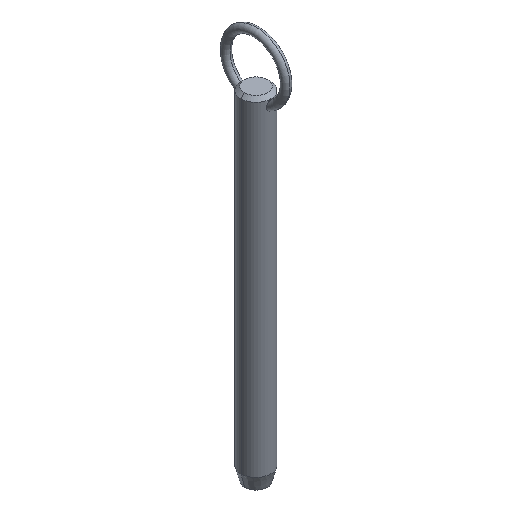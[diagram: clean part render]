
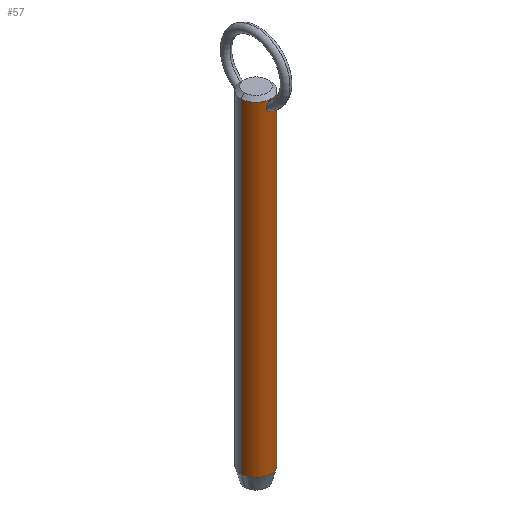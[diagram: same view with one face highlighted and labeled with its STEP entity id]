
A CAD part, isometric view. The second image highlights one B-rep face of the part: STEP entity #57.
In plain terms, the highlighted cylindrical face has radius 5.55 mm (diameter 11.1 mm), a partial arc.
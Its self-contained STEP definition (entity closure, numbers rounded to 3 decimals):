
#3 = CARTESIAN_POINT ( 'NONE',  ( -0.211, -5.547, 111.429 ) ) ;
#4 = EDGE_CURVE ( 'NONE', #201, #216, #134, .T. ) ;
#10 = FACE_OUTER_BOUND ( 'NONE', #47, .T. ) ;
#19 = CARTESIAN_POINT ( 'NONE',  ( 0.807, -5.492, 108.206 ) ) ;
#24 = CARTESIAN_POINT ( 'NONE',  ( 1.194, -5.422, 110.671 ) ) ;
#27 = CARTESIAN_POINT ( 'NONE',  ( 0.213, -5.547, 107.988 ) ) ;
#44 = CARTESIAN_POINT ( 'NONE',  ( -0.807, -5.492, 108.205 ) ) ;
#47 = EDGE_LOOP ( 'NONE', ( #224, #252, #444, #154 ) ) ;
#52 = CARTESIAN_POINT ( 'NONE',  ( -1.26, -5.407, 108.642 ) ) ;
#55 = EDGE_CURVE ( 'NONE', #376, #216, #335, .T. ) ;
#56 = CARTESIAN_POINT ( 'NONE',  ( -1.5, -5.343, 109.453 ) ) ;
#57 = ADVANCED_FACE ( 'NONE', ( #10, #305 ), #489, .T. ) ;
#60 = CARTESIAN_POINT ( 'NONE',  ( 0., -5.55, 111.445 ) ) ;
#65 = CARTESIAN_POINT ( 'NONE',  ( 0.941, -5.471, 111.007 ) ) ;
#68 = CARTESIAN_POINT ( 'NONE',  ( 0.786, -5.497, 111.157 ) ) ;
#72 = CARTESIAN_POINT ( 'NONE',  ( 0., -5.55, 107.977 ) ) ;
#88 = CARTESIAN_POINT ( 'NONE',  ( -0.107, -5.55, 107.977 ) ) ;
#90 = CARTESIAN_POINT ( 'NONE',  ( -0.513, -5.527, 111.323 ) ) ;
#93 = CARTESIAN_POINT ( 'NONE',  ( 0., -5.55, 111.445 ) ) ;
#106 = CARTESIAN_POINT ( 'NONE',  ( 0.421, -5.535, 108.032 ) ) ;
#114 = CARTESIAN_POINT ( 'NONE',  ( -5.55, 0., 111.75 ) ) ;
#119 = B_SPLINE_CURVE_WITH_KNOTS ( 'NONE', 3,
 ( #525, #88, #367, #450, #327, #279, #44, #340, #491, #52, #166, #293, #373, #56, #413, #203, #161, #456, #243, #486, #245, #90, #457, #3, #338, #93 ),
 .UNSPECIFIED., .F., .F.,
 ( 4, 2, 2, 2, 2, 2, 2, 2, 2, 2, 2, 2, 4 ),
 ( 0.01, 0.01, 0.01, 0.011, 0.011, 0.012, 0.012, 0.012, 0.013, 0.013, 0.014, 0.014, 0.015 ),
 .UNSPECIFIED. ) ;
#134 = LINE ( 'NONE', #339, #329 ) ;
#140 = DIRECTION ( 'NONE',  ( 0., 0., 1. ) ) ;
#143 = VERTEX_POINT ( 'NONE', #488 ) ;
#146 = DIRECTION ( 'NONE',  ( 0., 0., -1. ) ) ;
#154 = ORIENTED_EDGE ( 'NONE', *, *, #55, .T. ) ;
#158 = CARTESIAN_POINT ( 'NONE',  ( -5.55, 0., -9.2 ) ) ;
#159 = ORIENTED_EDGE ( 'NONE', *, *, #357, .T. ) ;
#161 = CARTESIAN_POINT ( 'NONE',  ( -1.44, -5.36, 110.087 ) ) ;
#166 = CARTESIAN_POINT ( 'NONE',  ( -1.362, -5.381, 108.832 ) ) ;
#174 = EDGE_CURVE ( 'NONE', #201, #316, #370, .T. ) ;
#175 = CARTESIAN_POINT ( 'NONE',  ( 0.106, -5.55, 111.445 ) ) ;
#176 = CARTESIAN_POINT ( 'NONE',  ( 0.515, -5.527, 111.322 ) ) ;
#178 = CARTESIAN_POINT ( 'NONE',  ( 0.214, -5.547, 111.428 ) ) ;
#179 = CARTESIAN_POINT ( 'NONE',  ( 1.363, -5.38, 108.834 ) ) ;
#180 = DIRECTION ( 'NONE',  ( 1., 0., 0. ) ) ;
#183 = CARTESIAN_POINT ( 'NONE',  ( 0.716, -5.504, 108.152 ) ) ;
#191 = AXIS2_PLACEMENT_3D ( 'NONE', #382, #140, #207 ) ;
#193 = VERTEX_POINT ( 'NONE', #377 ) ;
#201 = VERTEX_POINT ( 'NONE', #202 ) ;
#202 = CARTESIAN_POINT ( 'NONE',  ( 5.55, 0., 111.75 ) ) ;
#203 = CARTESIAN_POINT ( 'NONE',  ( -1.485, -5.348, 109.879 ) ) ;
#206 = DIRECTION ( 'NONE',  ( 0., 0., -1. ) ) ;
#207 = DIRECTION ( 'NONE',  ( -1., 0., 0. ) ) ;
#212 = CARTESIAN_POINT ( 'NONE',  ( 1.477, -5.35, 109.244 ) ) ;
#216 = VERTEX_POINT ( 'NONE', #256 ) ;
#221 = CARTESIAN_POINT ( 'NONE',  ( 1.503, -5.343, 109.559 ) ) ;
#223 = CARTESIAN_POINT ( 'NONE',  ( 1.055, -5.449, 108.405 ) ) ;
#224 = ORIENTED_EDGE ( 'NONE', *, *, #4, .F. ) ;
#240 = EDGE_LOOP ( 'NONE', ( #502, #159 ) ) ;
#243 = CARTESIAN_POINT ( 'NONE',  ( -1.195, -5.421, 110.671 ) ) ;
#245 = CARTESIAN_POINT ( 'NONE',  ( -0.785, -5.497, 111.158 ) ) ;
#251 = DIRECTION ( 'NONE',  ( 0., 0., -1. ) ) ;
#252 = ORIENTED_EDGE ( 'NONE', *, *, #174, .T. ) ;
#256 = CARTESIAN_POINT ( 'NONE',  ( 5.55, 0., -9.2 ) ) ;
#279 = CARTESIAN_POINT ( 'NONE',  ( -0.716, -5.504, 108.152 ) ) ;
#283 = AXIS2_PLACEMENT_3D ( 'NONE', #389, #251, #180 ) ;
#285 = DIRECTION ( 'NONE',  ( -1., 0., 0. ) ) ;
#286 = EDGE_CURVE ( 'NONE', #193, #143, #358, .T. ) ;
#287 = VECTOR ( 'NONE', #146, 1000. ) ;
#293 = CARTESIAN_POINT ( 'NONE',  ( -1.455, -5.356, 109.136 ) ) ;
#305 = FACE_BOUND ( 'NONE', #240, .T. ) ;
#308 = CARTESIAN_POINT ( 'NONE',  ( -5.55, 0., 106.7 ) ) ;
#311 = CARTESIAN_POINT ( 'NONE',  ( 1.295, -5.397, 110.482 ) ) ;
#316 = VERTEX_POINT ( 'NONE', #114 ) ;
#327 = CARTESIAN_POINT ( 'NONE',  ( -0.523, -5.526, 108.066 ) ) ;
#329 = VECTOR ( 'NONE', #206, 1000. ) ;
#335 = CIRCLE ( 'NONE', #191, 5.55 ) ;
#338 = CARTESIAN_POINT ( 'NONE',  ( -0.106, -5.55, 111.445 ) ) ;
#339 = CARTESIAN_POINT ( 'NONE',  ( 5.55, 0., 106.7 ) ) ;
#340 = CARTESIAN_POINT ( 'NONE',  ( -0.976, -5.464, 108.331 ) ) ;
#354 = CARTESIAN_POINT ( 'NONE',  ( 0.417, -5.535, 111.367 ) ) ;
#357 = EDGE_CURVE ( 'NONE', #143, #193, #119, .T. ) ;
#358 = B_SPLINE_CURVE_WITH_KNOTS ( 'NONE', 3,
 ( #60, #175, #178, #354, #176, #68, #65, #24, #311, #467, #390, #221, #393, #212, #431, #179, #505, #223, #472, #19, #183, #506, #106, #27, #388, #72 ),
 .UNSPECIFIED., .F., .F.,
 ( 4, 2, 2, 2, 2, 2, 2, 2, 2, 2, 2, 2, 4 ),
 ( 0.005, 0.005, 0.005, 0.006, 0.006, 0.007, 0.007, 0.008, 0.008, 0.009, 0.009, 0.009, 0.01 ),
 .UNSPECIFIED. ) ;
#367 = CARTESIAN_POINT ( 'NONE',  ( -0.212, -5.547, 107.988 ) ) ;
#370 = CIRCLE ( 'NONE', #283, 5.55 ) ;
#373 = CARTESIAN_POINT ( 'NONE',  ( -1.477, -5.35, 109.242 ) ) ;
#376 = VERTEX_POINT ( 'NONE', #158 ) ;
#377 = CARTESIAN_POINT ( 'NONE',  ( 0., -5.55, 111.445 ) ) ;
#382 = CARTESIAN_POINT ( 'NONE',  ( 0., 0., -9.2 ) ) ;
#388 = CARTESIAN_POINT ( 'NONE',  ( 0.107, -5.55, 107.977 ) ) ;
#389 = CARTESIAN_POINT ( 'NONE',  ( 0., 0., 111.75 ) ) ;
#390 = CARTESIAN_POINT ( 'NONE',  ( 1.486, -5.347, 109.874 ) ) ;
#393 = CARTESIAN_POINT ( 'NONE',  ( 1.5, -5.343, 109.454 ) ) ;
#413 = CARTESIAN_POINT ( 'NONE',  ( -1.503, -5.343, 109.559 ) ) ;
#414 = LINE ( 'NONE', #308, #287 ) ;
#416 = DIRECTION ( 'NONE',  ( 0., 0., -1. ) ) ;
#431 = CARTESIAN_POINT ( 'NONE',  ( 1.455, -5.356, 109.138 ) ) ;
#444 = ORIENTED_EDGE ( 'NONE', *, *, #469, .T. ) ;
#450 = CARTESIAN_POINT ( 'NONE',  ( -0.42, -5.535, 108.032 ) ) ;
#456 = CARTESIAN_POINT ( 'NONE',  ( -1.294, -5.398, 110.486 ) ) ;
#457 = CARTESIAN_POINT ( 'NONE',  ( -0.416, -5.535, 111.367 ) ) ;
#467 = CARTESIAN_POINT ( 'NONE',  ( 1.44, -5.36, 110.086 ) ) ;
#469 = EDGE_CURVE ( 'NONE', #316, #376, #414, .T. ) ;
#472 = CARTESIAN_POINT ( 'NONE',  ( 0.977, -5.464, 108.332 ) ) ;
#486 = CARTESIAN_POINT ( 'NONE',  ( -0.939, -5.472, 111.01 ) ) ;
#488 = CARTESIAN_POINT ( 'NONE',  ( 0., -5.55, 107.977 ) ) ;
#489 = CYLINDRICAL_SURFACE ( 'NONE', #499, 5.55 ) ;
#491 = CARTESIAN_POINT ( 'NONE',  ( -1.054, -5.449, 108.404 ) ) ;
#492 = CARTESIAN_POINT ( 'NONE',  ( 0., 0., 106.7 ) ) ;
#499 = AXIS2_PLACEMENT_3D ( 'NONE', #492, #416, #285 ) ;
#502 = ORIENTED_EDGE ( 'NONE', *, *, #286, .T. ) ;
#505 = CARTESIAN_POINT ( 'NONE',  ( 1.26, -5.407, 108.643 ) ) ;
#506 = CARTESIAN_POINT ( 'NONE',  ( 0.523, -5.526, 108.066 ) ) ;
#525 = CARTESIAN_POINT ( 'NONE',  ( 0., -5.55, 107.977 ) ) ;
